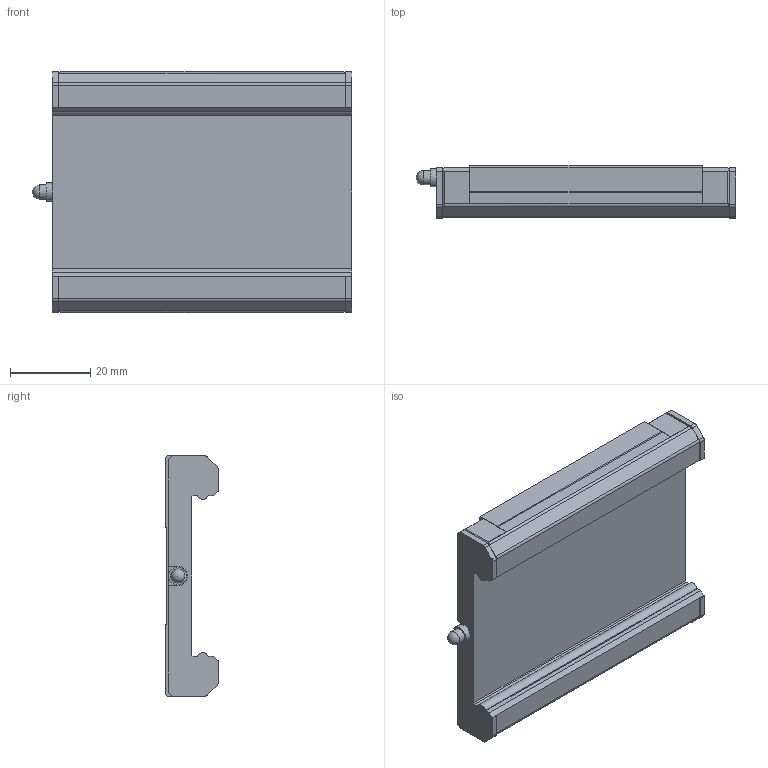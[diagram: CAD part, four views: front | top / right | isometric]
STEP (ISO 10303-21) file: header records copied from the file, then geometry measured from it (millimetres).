
FILE_DESCRIPTION(/* description */ ('STEP AP214'),/* implementation_level */ '2;1');
FILE_NAME(/* name */ 'SRS15WNUU(GK) BLOCK(PB1071)',/* time_stamp */ '2023-06-01T09:54:38+02:00',/* author */ ('License CC BY-ND 4.0'),/* organization */ ('CADENAS'),/* preprocessor_version */ 'ST-DEVELOPER v19.3',/* originating_system */ 'PARTsolutions',/* authorisation */ ' ');
FILE_SCHEMA (('AUTOMOTIVE_DESIGN {1 0 10303 214 3 1 1}'));
Length unit declared in the file: millimetre
Products named in the file (3): SRS15WNUU(GK) BLOCK(PB1071); PB107-SRS Grease Nipple Joint; SRS15WNUUPB1071 S
Assembly tree (2 placements, depth 2):
  SRS15WNUU(GK) BLOCK(PB1071)
    PB107-SRS Grease Nipple Joint
    SRS15WNUUPB1071 S
Bounding box: 79.5 x 13.1 x 60 mm (x, y, z)
Volume: 36722 mm3; surface area: 12994.6 mm2
Topology: 2 solids, 2 shells, 137 faces, 358 edges, 228 vertices
Faces by surface type: plane 96, cylinder 32, cone 8, sphere 1
Full cylindrical faces by diameter (mm): 3 x3, 3.242 x4, 3.5 x1, 4.5 x1
Entity records: 4059 total; most frequent: CARTESIAN_POINT 692, DIRECTION 682, ORIENTED_EDGE 660, EDGE_CURVE 330, LINE 258, VECTOR 258, VERTEX_POINT 222, AXIS2_PLACEMENT_3D 212
